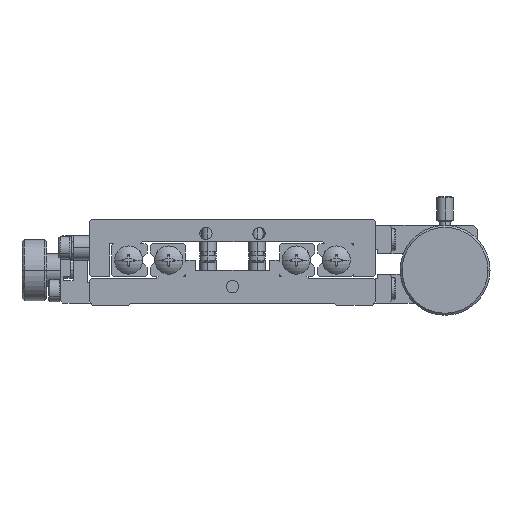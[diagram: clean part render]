
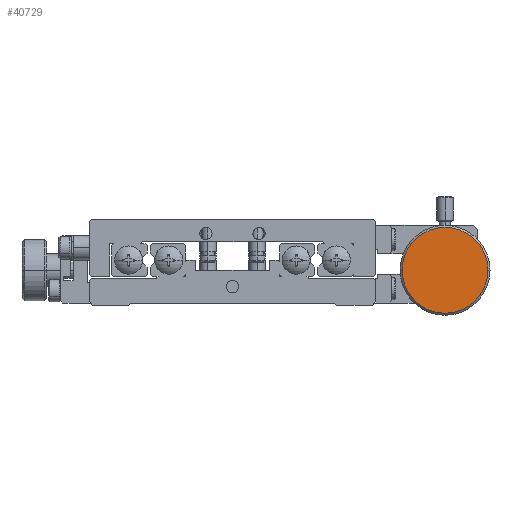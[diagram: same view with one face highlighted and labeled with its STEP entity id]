
A CAD part, front view. The second image highlights one B-rep face of the part: STEP entity #40729.
In plain terms, the highlighted planar face has unit normal (0, -1, 0).
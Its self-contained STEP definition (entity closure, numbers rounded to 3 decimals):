
#6696 = VERTEX_POINT ( 'NONE', #53313 ) ;
#6711 = VERTEX_POINT ( 'NONE', #53427 ) ;
#6730 = EDGE_CURVE ( 'NONE', #6711, #6696, #53365, .T. ) ;
#19403 = DIRECTION ( 'NONE',  ( 1., 0., 0. ) ) ;
#19404 = DIRECTION ( 'NONE',  ( 0., 1., 0. ) ) ;
#19405 = CARTESIAN_POINT ( 'NONE',  ( 52., -76., 8.5 ) ) ;
#19406 = AXIS2_PLACEMENT_3D ( 'NONE', #19405, #19404, #19403 ) ;
#19407 = DIRECTION ( 'NONE',  ( 1., 0., 0. ) ) ;
#19408 = DIRECTION ( 'NONE',  ( 0., 1., 0. ) ) ;
#19409 = AXIS2_PLACEMENT_3D ( 'NONE', #19411, #19408, #19407 ) ;
#19410 = CIRCLE ( 'NONE', #19406, 10.5 ) ;
#19411 = CARTESIAN_POINT ( 'NONE',  ( 52., -76., 8.5 ) ) ;
#19412 = PLANE ( 'NONE',  #19409 ) ;
#19415 = FACE_OUTER_BOUND ( 'NONE', #40730, .T. ) ;
#40729 = ADVANCED_FACE ( 'NONE', ( #19415 ), #19412, .F. ) ;
#40730 = EDGE_LOOP ( 'NONE', ( #40731, #40732 ) ) ;
#40731 = ORIENTED_EDGE ( 'NONE', *, *, #6730, .F. ) ;
#40732 = ORIENTED_EDGE ( 'NONE', *, *, #40733, .F. ) ;
#40733 = EDGE_CURVE ( 'NONE', #6696, #6711, #19410, .T. ) ;
#53313 = CARTESIAN_POINT ( 'NONE',  ( 41.5, -76., 8.5 ) ) ;
#53362 = DIRECTION ( 'NONE',  ( 1., 0., 0. ) ) ;
#53363 = DIRECTION ( 'NONE',  ( 0., 1., 0. ) ) ;
#53364 = AXIS2_PLACEMENT_3D ( 'NONE', #53371, #53363, #53362 ) ;
#53365 = CIRCLE ( 'NONE', #53364, 10.5 ) ;
#53371 = CARTESIAN_POINT ( 'NONE',  ( 52., -76., 8.5 ) ) ;
#53427 = CARTESIAN_POINT ( 'NONE',  ( 62.5, -76., 8.5 ) ) ;
